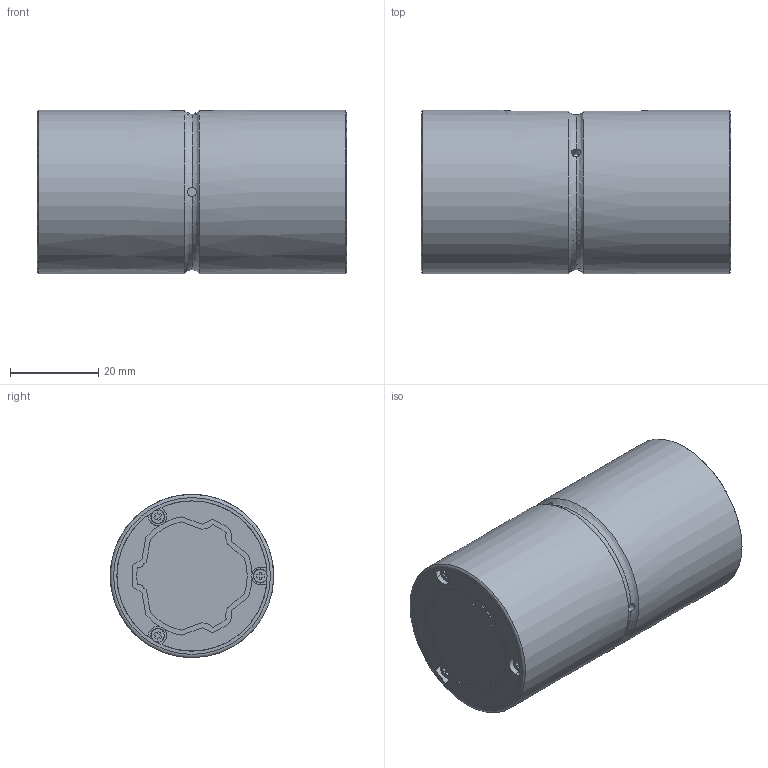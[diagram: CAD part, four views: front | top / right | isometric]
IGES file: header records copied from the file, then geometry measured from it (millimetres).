
Start section: Data from Parasolid IGES Translator 26.0.171, Copyright(c) 2006 Siemens PLM Software. All Rights Reserved.
Global section: file name: SLS25L170(00).igs; native system: By Siemens PLM Incorporated; preprocessor: XPlus GENERIC/IGES 26.0.171; author: Noname; organization: Noname; date: 20240523.114634; units: millimetre
Bounding box: 70 x 37 x 37 mm (x, y, z)
Surface area: 22140 mm2 (no closed solid volume)
Topology: 0 solids, 0 shells, 301 faces, 1694 edges, 1685 vertices
Faces by surface type: extrusion 168, revolution 133
